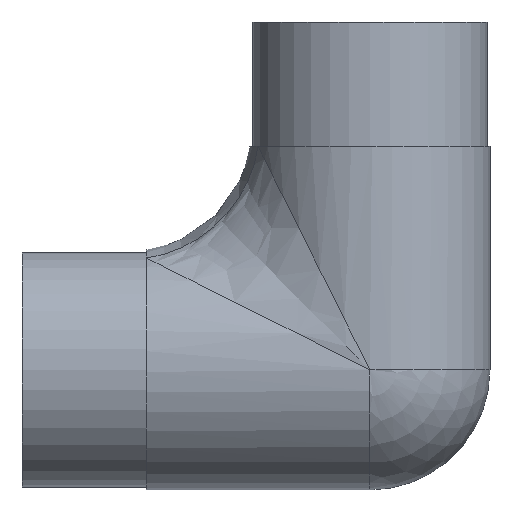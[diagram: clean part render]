
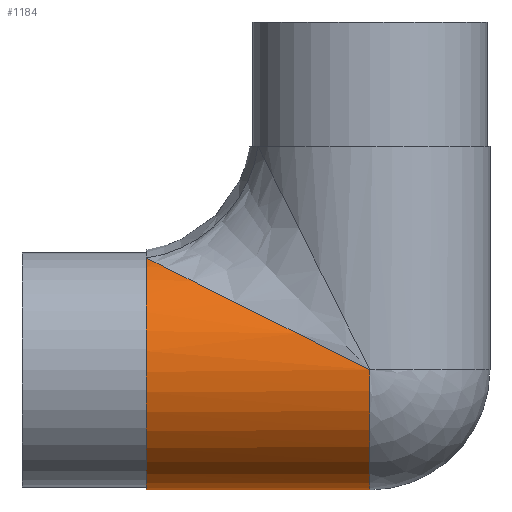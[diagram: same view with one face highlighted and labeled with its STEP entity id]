
A CAD part, front view. The second image highlights one B-rep face of the part: STEP entity #1184.
In plain terms, the highlighted cylindrical face has radius 24.15 mm (diameter 48.3 mm), a partial arc.
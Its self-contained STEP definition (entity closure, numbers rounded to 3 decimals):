
#86 = LINE ( 'NONE', #1424, #693 ) ;
#114 = DIRECTION ( 'NONE',  ( -1., 0., 0. ) ) ;
#122 = EDGE_CURVE ( 'NONE', #1086, #930, #86, .T. ) ;
#175 = DIRECTION ( 'NONE',  ( 1., 0., 0. ) ) ;
#202 = ORIENTED_EDGE ( 'NONE', *, *, #285, .T. ) ;
#244 = EDGE_LOOP ( 'NONE', ( #760, #422, #956, #202 ) ) ;
#269 = DIRECTION ( 'NONE',  ( 1., 0., 0. ) ) ;
#273 = CARTESIAN_POINT ( 'NONE',  ( 0., 0., 0. ) ) ;
#281 = AXIS2_PLACEMENT_3D ( 'NONE', #273, #1249, #1595 ) ;
#285 = EDGE_CURVE ( 'NONE', #1905, #338, #758, .T. ) ;
#286 = CARTESIAN_POINT ( 'NONE',  ( 0., -24.15, 0. ) ) ;
#294 = CARTESIAN_POINT ( 'NONE',  ( -20.394, -24.15, 10.197 ) ) ;
#338 = VERTEX_POINT ( 'NONE', #674 ) ;
#422 = ORIENTED_EDGE ( 'NONE', *, *, #122, .T. ) ;
#503 = EDGE_CURVE ( 'NONE', #1086, #338, #2030, .T. ) ;
#515 = EDGE_CURVE ( 'NONE', #930, #1905, #1858, .T. ) ;
#614 = CARTESIAN_POINT ( 'NONE',  ( -44.85, -8.963, 22.425 ) ) ;
#674 = CARTESIAN_POINT ( 'NONE',  ( -44.85, -8.963, 22.425 ) ) ;
#693 = VECTOR ( 'NONE', #269, 1000. ) ;
#758 =( BOUNDED_CURVE ( )  B_SPLINE_CURVE ( 3, ( #286, #294, #1581, #614 ),
 .UNSPECIFIED., .F., .F. ) 
 B_SPLINE_CURVE_WITH_KNOTS ( ( 4, 4 ),
 ( 4.712, 5.903 ),
 .UNSPECIFIED. ) 
 CURVE ( )  GEOMETRIC_REPRESENTATION_ITEM ( )  RATIONAL_B_SPLINE_CURVE ( ( 1., 0.885, 0.885, 1. ) ) 
 REPRESENTATION_ITEM ( '' )  );
#760 = ORIENTED_EDGE ( 'NONE', *, *, #503, .F. ) ;
#771 = AXIS2_PLACEMENT_3D ( 'NONE', #1103, #114, #786 ) ;
#786 = DIRECTION ( 'NONE',  ( 0., 0., 1. ) ) ;
#930 = VERTEX_POINT ( 'NONE', #1527 ) ;
#956 = ORIENTED_EDGE ( 'NONE', *, *, #515, .T. ) ;
#1086 = VERTEX_POINT ( 'NONE', #1717 ) ;
#1103 = CARTESIAN_POINT ( 'NONE',  ( -44.85, 0., 0. ) ) ;
#1176 = CYLINDRICAL_SURFACE ( 'NONE', #1658, 24.15 ) ;
#1184 = ADVANCED_FACE ( 'NONE', ( #2007 ), #1176, .T. ) ;
#1249 = DIRECTION ( 'NONE',  ( -1., 0., 0. ) ) ;
#1324 = CARTESIAN_POINT ( 'NONE',  ( -44.85, 0., 0. ) ) ;
#1424 = CARTESIAN_POINT ( 'NONE',  ( -44.85, 0., -24.15 ) ) ;
#1527 = CARTESIAN_POINT ( 'NONE',  ( 0., 0., -24.15 ) ) ;
#1581 = CARTESIAN_POINT ( 'NONE',  ( -37.281, -18.432, 18.64 ) ) ;
#1595 = DIRECTION ( 'NONE',  ( 0., 0., -1. ) ) ;
#1658 = AXIS2_PLACEMENT_3D ( 'NONE', #1324, #175, #2133 ) ;
#1717 = CARTESIAN_POINT ( 'NONE',  ( -44.85, 0., -24.15 ) ) ;
#1858 = CIRCLE ( 'NONE', #281, 24.15 ) ;
#1905 = VERTEX_POINT ( 'NONE', #1987 ) ;
#1987 = CARTESIAN_POINT ( 'NONE',  ( 0., -24.15, 0. ) ) ;
#2007 = FACE_OUTER_BOUND ( 'NONE', #244, .T. ) ;
#2030 = CIRCLE ( 'NONE', #771, 24.15 ) ;
#2133 = DIRECTION ( 'NONE',  ( 0., 0., -1. ) ) ;
